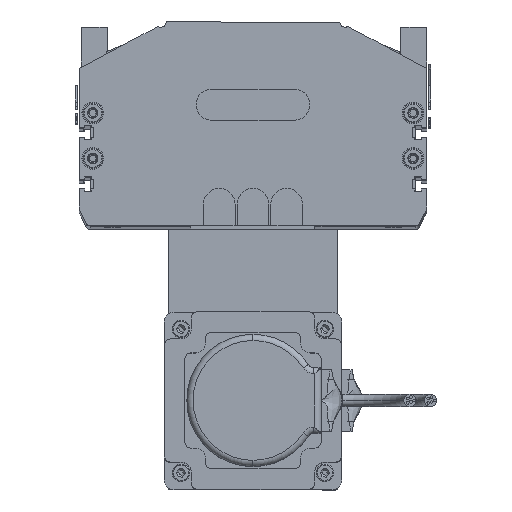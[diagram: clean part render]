
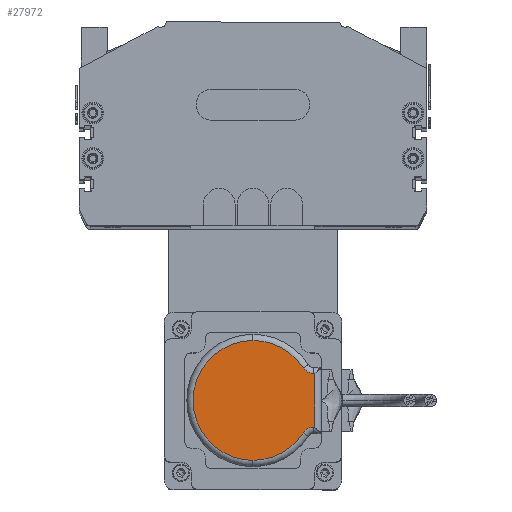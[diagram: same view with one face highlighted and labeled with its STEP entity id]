
A CAD part, top view. The second image highlights one B-rep face of the part: STEP entity #27972.
In plain terms, the highlighted planar face has unit normal (0, 0, 1).
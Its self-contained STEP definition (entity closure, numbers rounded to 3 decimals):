
#27170 = VERTEX_POINT ( 'NONE', #47253 ) ;
#27198 = EDGE_CURVE ( 'NONE', #27201, #27170, #47348, .T. ) ;
#27201 = VERTEX_POINT ( 'NONE', #47361 ) ;
#27476 = VERTEX_POINT ( 'NONE', #48431 ) ;
#27971 = EDGE_CURVE ( 'NONE', #27201, #28248, #49138, .T. ) ;
#27972 = ADVANCED_FACE ( 'NONE', ( #49195 ), #49161, .T. ) ;
#27973 = VERTEX_POINT ( 'NONE', #49202 ) ;
#27974 = ORIENTED_EDGE ( 'NONE', *, *, #27971, .F. ) ;
#27977 = ORIENTED_EDGE ( 'NONE', *, *, #28124, .T. ) ;
#28016 = EDGE_CURVE ( 'NONE', #28100, #28207, #49276, .T. ) ;
#28052 = EDGE_CURVE ( 'NONE', #27973, #28117, #49397, .T. ) ;
#28060 = ORIENTED_EDGE ( 'NONE', *, *, #28052, .T. ) ;
#28093 = ORIENTED_EDGE ( 'NONE', *, *, #27198, .T. ) ;
#28095 = EDGE_CURVE ( 'NONE', #27476, #28207, #49605, .T. ) ;
#28097 = ORIENTED_EDGE ( 'NONE', *, *, #28119, .T. ) ;
#28099 = ORIENTED_EDGE ( 'NONE', *, *, #28095, .T. ) ;
#28100 = VERTEX_POINT ( 'NONE', #49592 ) ;
#28114 = ORIENTED_EDGE ( 'NONE', *, *, #28115, .T. ) ;
#28115 = EDGE_CURVE ( 'NONE', #28117, #28248, #49664, .T. ) ;
#28117 = VERTEX_POINT ( 'NONE', #49834 ) ;
#28118 = ORIENTED_EDGE ( 'NONE', *, *, #28016, .F. ) ;
#28119 = EDGE_CURVE ( 'NONE', #28100, #27973, #49707, .T. ) ;
#28124 = EDGE_CURVE ( 'NONE', #27170, #27476, #49824, .T. ) ;
#28207 = VERTEX_POINT ( 'NONE', #50137 ) ;
#28235 = EDGE_LOOP ( 'NONE', ( #27974, #28093, #27977, #28099, #28118, #28097, #28060, #28114 ) ) ;
#28248 = VERTEX_POINT ( 'NONE', #50250 ) ;
#47209 = CARTESIAN_POINT ( 'NONE',  ( 33., 33., 26. ) ) ;
#47253 = CARTESIAN_POINT ( 'NONE',  ( 4., 33., 26. ) ) ;
#47330 = DIRECTION ( 'NONE',  ( 1., 0., 0. ) ) ;
#47331 = DIRECTION ( 'NONE',  ( 0., 0., 1. ) ) ;
#47348 = CIRCLE ( 'NONE', #47365, 29. ) ;
#47361 = CARTESIAN_POINT ( 'NONE',  ( 17.257, 57.355, 26. ) ) ;
#47365 = AXIS2_PLACEMENT_3D ( 'NONE', #47209, #47331, #47330 ) ;
#48431 = CARTESIAN_POINT ( 'NONE',  ( 62., 33., 26. ) ) ;
#49138 = CIRCLE ( 'NONE', #49198, 6. ) ;
#49146 = CARTESIAN_POINT ( 'NONE',  ( 14., 62.394, 26. ) ) ;
#49161 = PLANE ( 'NONE',  #49192 ) ;
#49189 = DIRECTION ( 'NONE',  ( 1., 0., 0. ) ) ;
#49190 = DIRECTION ( 'NONE',  ( 0., 0., 1. ) ) ;
#49191 = CARTESIAN_POINT ( 'NONE',  ( 33., 33., 26. ) ) ;
#49192 = AXIS2_PLACEMENT_3D ( 'NONE', #49191, #49190, #49189 ) ;
#49195 = FACE_OUTER_BOUND ( 'NONE', #28235, .T. ) ;
#49196 = DIRECTION ( 'NONE',  ( 1., 0., 0. ) ) ;
#49197 = DIRECTION ( 'NONE',  ( 0., 0., 1. ) ) ;
#49198 = AXIS2_PLACEMENT_3D ( 'NONE', #49146, #49197, #49196 ) ;
#49202 = CARTESIAN_POINT ( 'NONE',  ( 46., 63., 26. ) ) ;
#49256 = DIRECTION ( 'NONE',  ( 0., 0., 1. ) ) ;
#49267 = AXIS2_PLACEMENT_3D ( 'NONE', #49268, #49256, #49326 ) ;
#49268 = CARTESIAN_POINT ( 'NONE',  ( 52., 62.394, 26. ) ) ;
#49276 = CIRCLE ( 'NONE', #49267, 6. ) ;
#49326 = DIRECTION ( 'NONE',  ( 1., 0., 0. ) ) ;
#49392 = DIRECTION ( 'NONE',  ( -1., 0., 0. ) ) ;
#49394 = VECTOR ( 'NONE', #49392, 1000. ) ;
#49395 = CARTESIAN_POINT ( 'NONE',  ( 17.5, 63., 26. ) ) ;
#49397 = LINE ( 'NONE', #49395, #49394 ) ;
#49588 = DIRECTION ( 'NONE',  ( 1., 0., 0. ) ) ;
#49590 = DIRECTION ( 'NONE',  ( 0., 0., 1. ) ) ;
#49591 = CARTESIAN_POINT ( 'NONE',  ( 33., 33., 26. ) ) ;
#49592 = CARTESIAN_POINT ( 'NONE',  ( 46., 62.394, 26. ) ) ;
#49603 = AXIS2_PLACEMENT_3D ( 'NONE', #49591, #49590, #49588 ) ;
#49605 = CIRCLE ( 'NONE', #49603, 29. ) ;
#49662 = CARTESIAN_POINT ( 'NONE',  ( 20., 33., 26. ) ) ;
#49664 = LINE ( 'NONE', #49662, #49830 ) ;
#49681 = AXIS2_PLACEMENT_3D ( 'NONE', #49798, #49790, #49788 ) ;
#49707 = LINE ( 'NONE', #49818, #49816 ) ;
#49788 = DIRECTION ( 'NONE',  ( 1., 0., 0. ) ) ;
#49790 = DIRECTION ( 'NONE',  ( 0., 0., 1. ) ) ;
#49798 = CARTESIAN_POINT ( 'NONE',  ( 33., 33., 26. ) ) ;
#49814 = DIRECTION ( 'NONE',  ( 0., 1., 0. ) ) ;
#49816 = VECTOR ( 'NONE', #49814, 1000. ) ;
#49818 = CARTESIAN_POINT ( 'NONE',  ( 46., 33., 26. ) ) ;
#49824 = CIRCLE ( 'NONE', #49681, 29. ) ;
#49829 = DIRECTION ( 'NONE',  ( 0., -1., 0. ) ) ;
#49830 = VECTOR ( 'NONE', #49829, 1000. ) ;
#49834 = CARTESIAN_POINT ( 'NONE',  ( 20., 63., 26. ) ) ;
#50137 = CARTESIAN_POINT ( 'NONE',  ( 48.743, 57.355, 26. ) ) ;
#50250 = CARTESIAN_POINT ( 'NONE',  ( 20., 62.394, 26. ) ) ;
